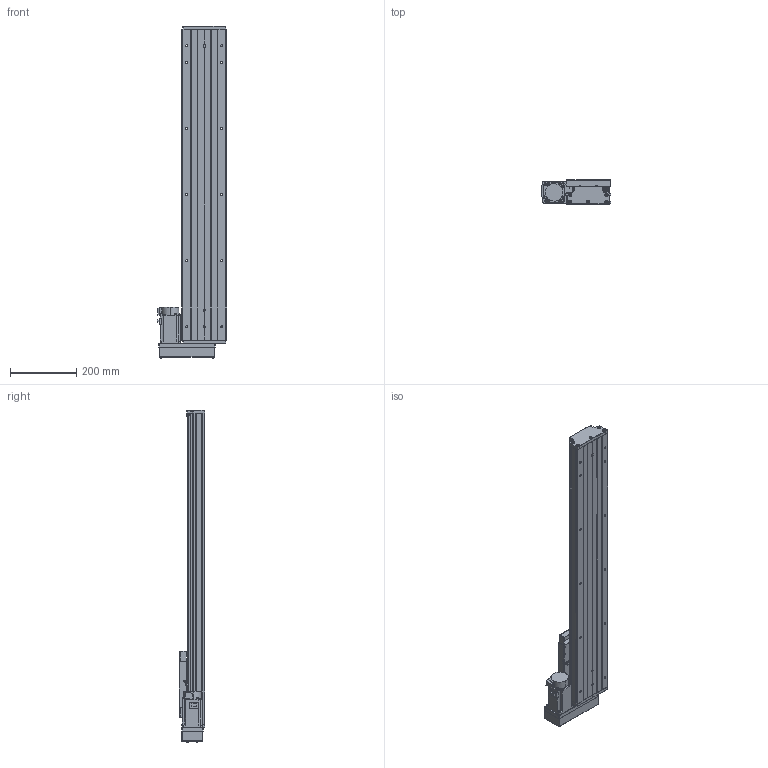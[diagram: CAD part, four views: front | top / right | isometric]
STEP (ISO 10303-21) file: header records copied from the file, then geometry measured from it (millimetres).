
FILE_DESCRIPTION (( 'STEP AP203' ), '1' );
FILE_NAME ('GTH14-700-BL-M40-C4.step', '2023-06-30T08:41:01', ( '微软用户' ), ( '微软中国' ), 'SwSTEP 2.0', 'SolidWorks 2020', '' );
FILE_SCHEMA (( 'CONFIG_CONTROL_DESIGN' ));
Length unit declared in the file: millimetre
Products named in the file (19): GTH14-033; CTHA60-017; す晦芛蹟隊 M3℅5; GTH14-001_700; GTH14-700-BL-M40-C4; EE_SX911P_R; GTH14-002_GTH14-002; CTHA60-016; GTH14-004; GBT 70.1-M3℅5; HG-KN43J-S100; GTH14-005; GBT77-2000 M3×3; GBT 70.2-M4¡Á35_M4¡Á35; GB1155-6X6; GTH14-031; GTH14-015-2_CTHA86-015-2; GBT70.1 M5℅16; GBT 70.2-M3¡Á5_M3¡Á6
Assembly tree (58 placements, depth 2):
  GTH14-700-BL-M40-C4
    GTH14-001_700
    GTH14-002_GTH14-002
    GTH14-004
    GTH14-005
    GB1155-6X6  x2
    GBT70.1 M5℅16  x10
    CTHA60-017  x3
    EE_SX911P_R  x3
    CTHA60-016  x2
    GBT 70.1-M3℅5  x6
    GBT77-2000 M3×3  x6
    GTH14-031
    GBT 70.2-M3¡Á5_M3¡Á6  x8
    す晦芛蹟隊 M3℅5  x6
    HG-KN43J-S100
    GBT 70.2-M4¡Á35_M4¡Á35  x4
    GTH14-015-2_CTHA86-015-2
    GTH14-033
Bounding box: 209.3 x 78 x 1004.2 mm (x, y, z)
Volume: 5523737.3 mm3; surface area: 924319.8 mm2
Topology: 61 solids, 61 shells, 2463 faces, 5857 edges, 3610 vertices
Faces by surface type: plane 1309, cylinder 664, cone 314, torus 124, sphere 32, bspline 20
Entity records: 44466 total; most frequent: CARTESIAN_POINT 9907, DIRECTION 6549, ORIENTED_EDGE 6404, EDGE_CURVE 3202, AXIS2_PLACEMENT_3D 2244, LINE 2061, VECTOR 2061, VERTEX_POINT 2028
